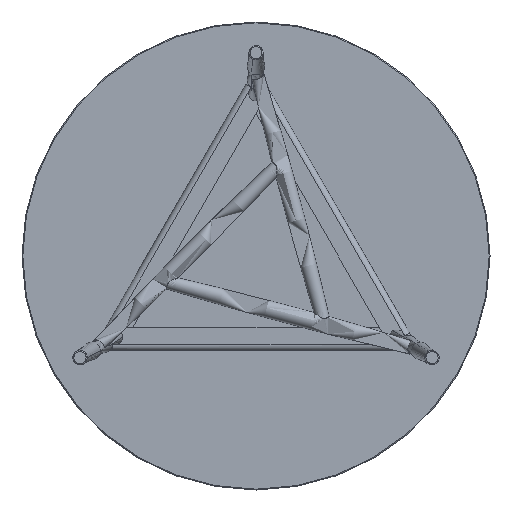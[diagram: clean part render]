
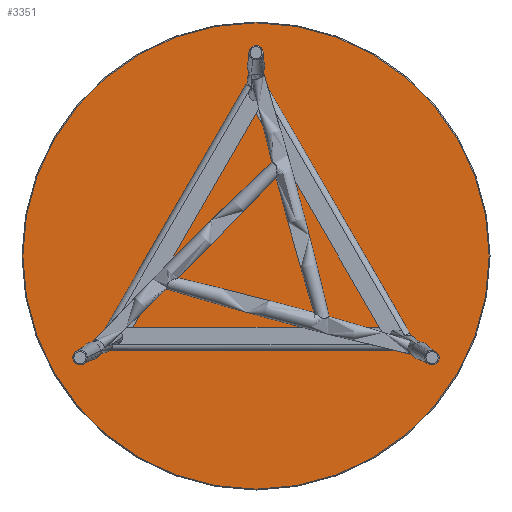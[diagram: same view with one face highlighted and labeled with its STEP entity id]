
A CAD part, front view. The second image highlights one B-rep face of the part: STEP entity #3351.
In plain terms, the highlighted planar face has unit normal (0, -1, 0).
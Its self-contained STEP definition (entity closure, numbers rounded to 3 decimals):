
#905 = EDGE_CURVE ( 'NONE', #4070, #4043, #3838, .T. ) ;
#1004 = ORIENTED_EDGE ( 'NONE', *, *, #905, .T. ) ;
#1058 = DIRECTION ( 'NONE',  ( 0., 0., 1. ) ) ;
#1587 = FACE_OUTER_BOUND ( 'NONE', #2671, .T. ) ;
#1913 = DIRECTION ( 'NONE',  ( 0., 0., 1. ) ) ;
#1966 = CARTESIAN_POINT ( 'NONE',  ( 0., -10., 398.586 ) ) ;
#2260 = DIRECTION ( 'NONE',  ( 0., 0., 1. ) ) ;
#2357 = DIRECTION ( 'NONE',  ( 0., -1., 0. ) ) ;
#2594 = AXIS2_PLACEMENT_3D ( 'NONE', #4279, #2624, #2260 ) ;
#2624 = DIRECTION ( 'NONE',  ( 0., -1., 0. ) ) ;
#2659 = AXIS2_PLACEMENT_3D ( 'NONE', #4018, #2357, #1058 ) ;
#2671 = EDGE_LOOP ( 'NONE', ( #1004, #3721 ) ) ;
#2876 = AXIS2_PLACEMENT_3D ( 'NONE', #3925, #3883, #1913 ) ;
#2945 = PLANE ( 'NONE',  #2876 ) ;
#3194 = EDGE_CURVE ( 'NONE', #4043, #4070, #3286, .T. ) ;
#3286 = CIRCLE ( 'NONE', #2594, 398.586 ) ;
#3351 = ADVANCED_FACE ( 'NONE', ( #1587 ), #2945, .F. ) ;
#3402 = CARTESIAN_POINT ( 'NONE',  ( 0., -10., -398.586 ) ) ;
#3721 = ORIENTED_EDGE ( 'NONE', *, *, #3194, .T. ) ;
#3838 = CIRCLE ( 'NONE', #2659, 398.586 ) ;
#3883 = DIRECTION ( 'NONE',  ( 0., 1., 0. ) ) ;
#3925 = CARTESIAN_POINT ( 'NONE',  ( 0., -10., 0. ) ) ;
#4018 = CARTESIAN_POINT ( 'NONE',  ( 0., -10., 0. ) ) ;
#4043 = VERTEX_POINT ( 'NONE', #3402 ) ;
#4070 = VERTEX_POINT ( 'NONE', #1966 ) ;
#4279 = CARTESIAN_POINT ( 'NONE',  ( 0., -10., 0. ) ) ;
